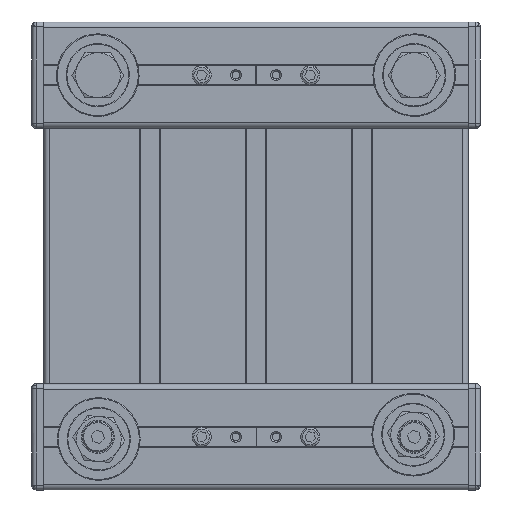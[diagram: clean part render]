
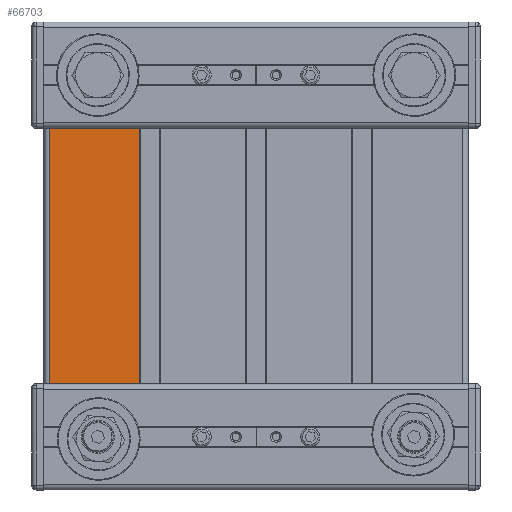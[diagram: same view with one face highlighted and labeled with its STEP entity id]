
A CAD part, front view. The second image highlights one B-rep face of the part: STEP entity #66703.
In plain terms, the highlighted planar face has unit normal (0, -1, 0) as drawn and (0, 1, 0) by its records, which use the part's own axes.
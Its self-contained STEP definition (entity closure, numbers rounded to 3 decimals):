
#3826 = CARTESIAN_POINT ( 'NONE',  ( 0., 15.606, 87.984 ) ) ;
#6117 = ORIENTED_EDGE ( 'NONE', *, *, #69363, .F. ) ;
#6497 = DIRECTION ( 'NONE',  ( -1., 0., 0. ) ) ;
#7380 = AXIS2_PLACEMENT_3D ( 'NONE', #32208, #20571, #32567 ) ;
#8518 = CARTESIAN_POINT ( 'NONE',  ( 0., 15.606, 49.884 ) ) ;
#9179 = ORIENTED_EDGE ( 'NONE', *, *, #29656, .T. ) ;
#9339 = VECTOR ( 'NONE', #6497, 1000. ) ;
#9866 = CARTESIAN_POINT ( 'NONE',  ( 108.2, 15.606, 49.884 ) ) ;
#11830 = LINE ( 'NONE', #46369, #9339 ) ;
#14723 = VERTEX_POINT ( 'NONE', #3826 ) ;
#17814 = CARTESIAN_POINT ( 'NONE',  ( 108.2, 15.606, 87.984 ) ) ;
#19632 = EDGE_CURVE ( 'NONE', #60144, #35519, #60310, .T. ) ;
#19849 = FACE_OUTER_BOUND ( 'NONE', #28063, .T. ) ;
#20571 = DIRECTION ( 'NONE',  ( 0., -1., 0. ) ) ;
#21327 = DIRECTION ( 'NONE',  ( 0., 0., 1. ) ) ;
#27119 = DIRECTION ( 'NONE',  ( -1., 0., 0. ) ) ;
#28063 = EDGE_LOOP ( 'NONE', ( #44433, #6117, #73393, #9179 ) ) ;
#29656 = EDGE_CURVE ( 'NONE', #60144, #67852, #49309, .T. ) ;
#31631 = CARTESIAN_POINT ( 'NONE',  ( 108.2, 15.606, 49.884 ) ) ;
#32208 = CARTESIAN_POINT ( 'NONE',  ( 108.2, 15.606, 49.884 ) ) ;
#32567 = DIRECTION ( 'NONE',  ( 0., 0., -1. ) ) ;
#35519 = VERTEX_POINT ( 'NONE', #17814 ) ;
#36433 = VECTOR ( 'NONE', #21327, 1000. ) ;
#39685 = DIRECTION ( 'NONE',  ( 0., 0., 1. ) ) ;
#40567 = EDGE_CURVE ( 'NONE', #67852, #14723, #51342, .T. ) ;
#44433 = ORIENTED_EDGE ( 'NONE', *, *, #40567, .T. ) ;
#46369 = CARTESIAN_POINT ( 'NONE',  ( 108.2, 15.606, 87.984 ) ) ;
#47203 = CARTESIAN_POINT ( 'NONE',  ( 0., 15.606, 49.884 ) ) ;
#49309 = LINE ( 'NONE', #9866, #50418 ) ;
#50418 = VECTOR ( 'NONE', #27119, 1000. ) ;
#51342 = LINE ( 'NONE', #47203, #57872 ) ;
#54732 = CARTESIAN_POINT ( 'NONE',  ( 108.2, 15.606, 49.884 ) ) ;
#57872 = VECTOR ( 'NONE', #39685, 1000. ) ;
#60144 = VERTEX_POINT ( 'NONE', #31631 ) ;
#60310 = LINE ( 'NONE', #54732, #36433 ) ;
#66703 = ADVANCED_FACE ( 'NONE', ( #19849 ), #71127, .F. ) ;
#67852 = VERTEX_POINT ( 'NONE', #8518 ) ;
#69363 = EDGE_CURVE ( 'NONE', #35519, #14723, #11830, .T. ) ;
#71127 = PLANE ( 'NONE',  #7380 ) ;
#73393 = ORIENTED_EDGE ( 'NONE', *, *, #19632, .F. ) ;
